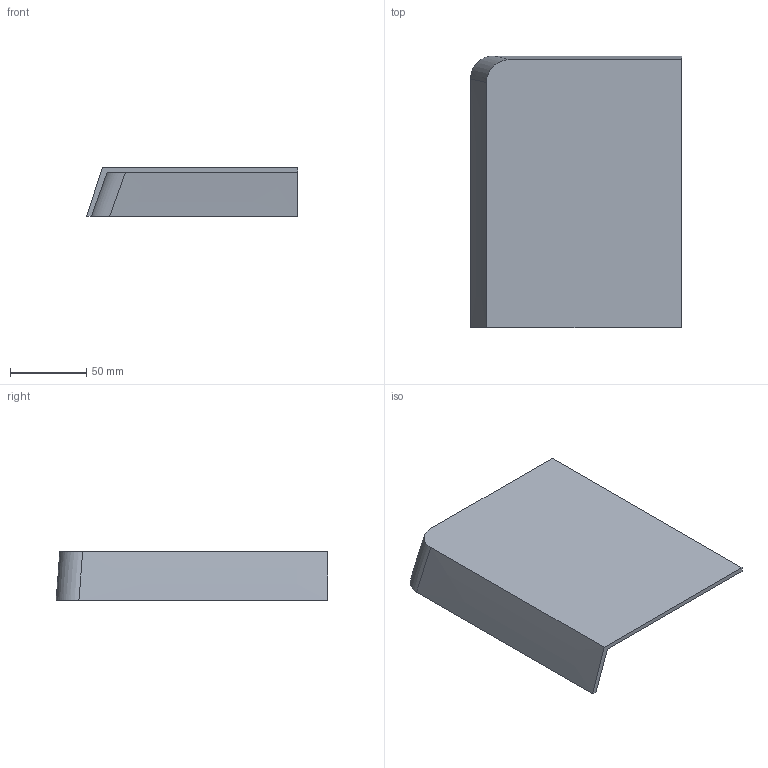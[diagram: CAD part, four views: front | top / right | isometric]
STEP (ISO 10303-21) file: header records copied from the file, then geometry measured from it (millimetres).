
FILE_DESCRIPTION(('Open CASCADE Model'),'2;1');
FILE_NAME('Open CASCADE Shape Model','2026-11-03T04:29:31',('Author'),( 'Open CASCADE'),'Open CASCADE STEP processor 7.8','Open CASCADE 7.8' ,'Unknown');
FILE_SCHEMA(('AUTOMOTIVE_DESIGN { 1 0 10303 214 1 1 1 1 }'));
Length unit declared in the file: millimetre
Products named in the file (1): Open CASCADE STEP translator 7.8 14
Bounding box: 138.56 x 178.46 x 32 mm (x, y, z)
Volume: 97515.1 mm3; surface area: 65203.8 mm2
Topology: 1 solids, 1 shells, 11 faces, 27 edges, 18 vertices
Faces by surface type: bspline 6, plane 5
Entity records: 1220 total; most frequent: CARTESIAN_POINT 759, ORIENTED_EDGE 54, PCURVE 54, DEFINITIONAL_REPRESENTATION 54, DIRECTION 47, B_SPLINE_CURVE_WITH_KNOTS 46, LINE 35, VECTOR 35
